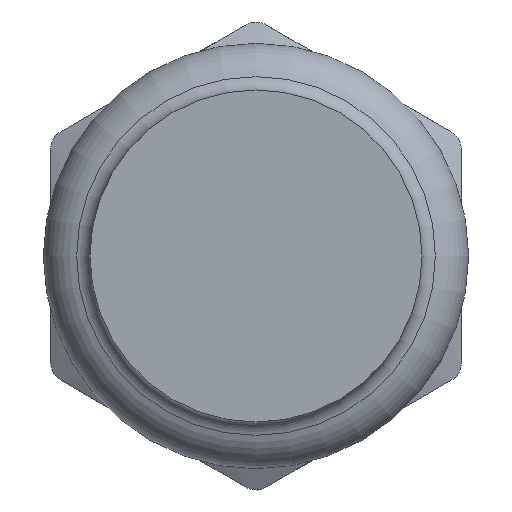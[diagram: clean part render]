
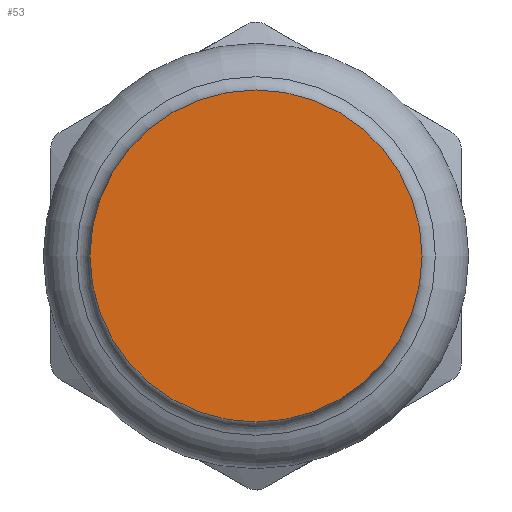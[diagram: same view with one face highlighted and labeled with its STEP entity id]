
A CAD part, front view. The second image highlights one B-rep face of the part: STEP entity #53.
In plain terms, the highlighted planar face has unit normal (0, -1, 0).
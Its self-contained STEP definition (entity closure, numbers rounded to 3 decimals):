
#53=ADVANCED_FACE('',(#78),#80,.T.);
#78=FACE_BOUND('',#79,.T.);
#79=EDGE_LOOP('',(#275));
#80=PLANE('',#81);
#81=AXIS2_PLACEMENT_3D('',#82,#83,#84);
#82=CARTESIAN_POINT('',(0.,0.,0.));
#83=DIRECTION('',(0.,-1.,0.));
#84=DIRECTION('',(0.,0.,1.));
#275=ORIENTED_EDGE('',*,*,#375,.F.);
#375=EDGE_CURVE('',#425,#425,#426,.T.);
#425=VERTEX_POINT('',#513);
#426=CIRCLE('',#514,8.9);
#513=CARTESIAN_POINT('',(0.,0.,8.9));
#514=AXIS2_PLACEMENT_3D('',#515,#516,#517);
#515=CARTESIAN_POINT('',(0.,0.,0.));
#516=DIRECTION('',(0.,1.,0.));
#517=DIRECTION('',(0.,0.,1.));
